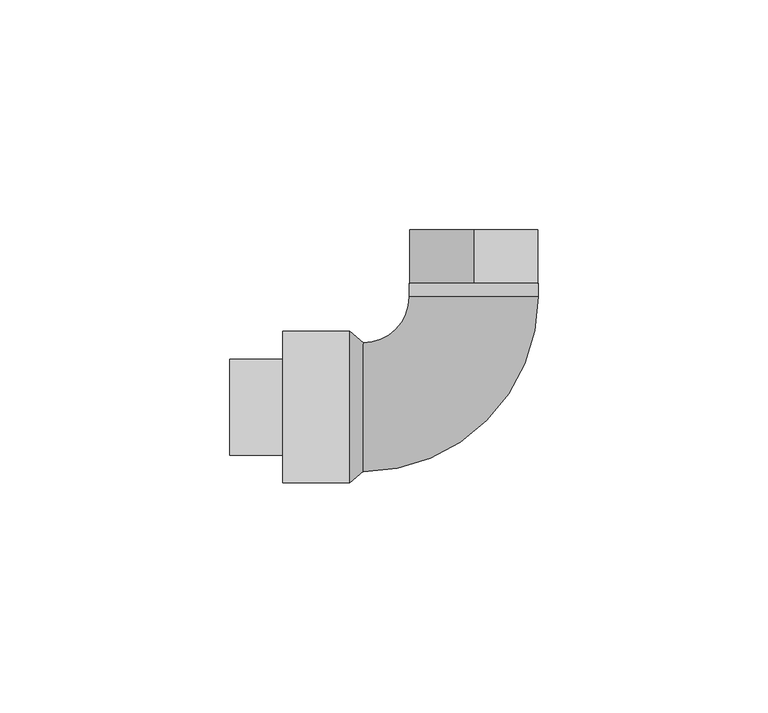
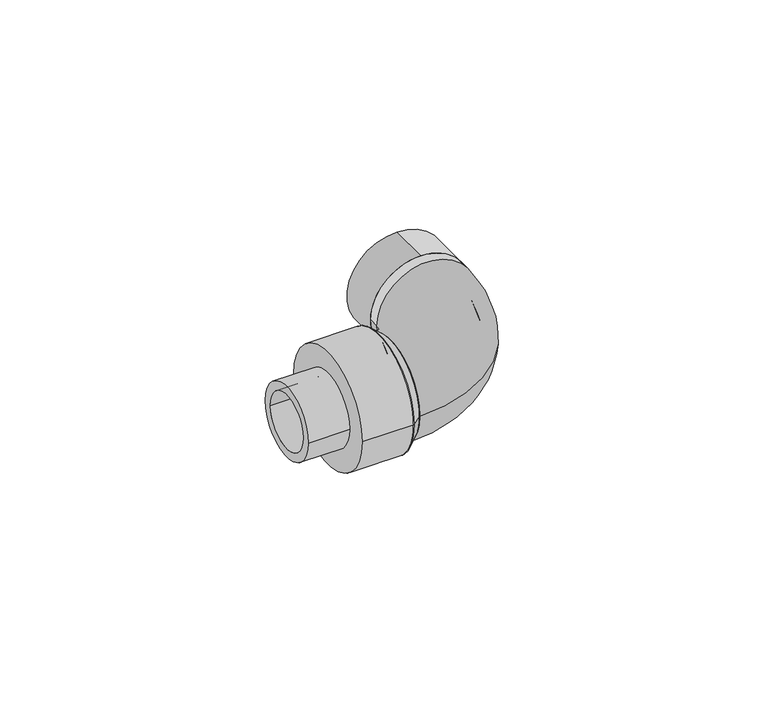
"""IFC4 building model written with IfcOpenShell, lengths in millimetres: pipe fitting geometry, 37_Угольник комбинированный НР : Белый цвет."""

from ifc_helpers import new_model, si_unit, point, frame, frame_2d, origin, origin_2d, place, context, project, spatial, polyline, circle_curve, ellipse_curve, trimmed, segment, composite_curve, outline, extrude, source, transform, mapped, element, save
from ifc_brep_helpers import plane_surface, revolved_surface, advanced_brep


def pipe_fitting_3f71ca70(model_context):
    return source(origin(), model_context, "Body", "SolidModel", [
        extrude(outline(composite_curve([segment(trimmed(circle_curve(origin_2d(), 10.4), [point((-10.4, 0.0))], [point((10.4, 0.0))], False, "CARTESIAN"), True, "CONTINUOUS"), segment(trimmed(circle_curve(origin_2d(), 10.4), [point((10.4, 0.0))], [point((-10.4, 0.0))], False, "CARTESIAN"), True, "CONTINUOUS")], self_intersect=False), holes=[composite_curve([segment(trimmed(circle_curve(origin_2d(), 7.9), [point((-7.9, 0.0))], [point((7.9, 0.0))], True, "CARTESIAN"), True, "CONTINUOUS"), segment(trimmed(circle_curve(origin_2d(), 7.9), [point((7.9, 0.0))], [point((-7.9, 0.0))], True, "CARTESIAN"), True, "CONTINUOUS")], self_intersect=False)]), frame((-49.35, 0.0, 0.0), z_axis=(1.0, 0.0, 0.0), x_axis=(0.0, 1.0, 0.0)), (0.0, 0.0, 1.0), 11.5),
        advanced_brep(
        [(-10.35, 24.0, 0.0), (17.65, 24.0, 0.0), (-6.35, 24.0, 0.0), (13.65, 24.0, 0.0), (-20.35, 14.0, 0.0), (-20.35, -14.0, 0.0), (-20.35, 10.0, 0.0), (-20.35, -10.0, 0.0)],
        [
            (0, 1, circle_curve(frame((3.65, 24.0, 0.0), z_axis=(0.0, 1.0, 0.0), x_axis=(1.0, 0.0, 0.0)), 14.0)),
            (1, 0, circle_curve(frame((3.65, 24.0, 0.0), z_axis=(0.0, 1.0, 0.0), x_axis=(1.0, 0.0, 0.0)), 14.0)),
            (2, 3, circle_curve(frame((3.65, 24.0, 0.0), z_axis=(0.0, -1.0, 0.0), x_axis=(1.0, 0.0, 0.0)), 10.0)),
            (3, 2, circle_curve(frame((3.65, 24.0, 0.0), z_axis=(0.0, -1.0, 0.0), x_axis=(1.0, 0.0, 0.0)), 10.0)),
            (4, 5, circle_curve(frame((-20.35, 0.0, 0.0), z_axis=(-1.0, 0.0, 0.0), x_axis=(0.0, -1.0, 0.0)), 14.0)),
            (5, 4, circle_curve(frame((-20.35, 0.0, 0.0), z_axis=(-1.0, 0.0, 0.0), x_axis=(0.0, -1.0, 0.0)), 14.0)),
            (6, 7, circle_curve(frame((-20.35, 0.0, 0.0), z_axis=(1.0, 0.0, 0.0), x_axis=(0.0, -1.0, 0.0)), 10.0)),
            (7, 6, circle_curve(frame((-20.35, 0.0, 0.0), z_axis=(1.0, 0.0, 0.0), x_axis=(0.0, -1.0, 0.0)), 10.0)),
            (5, 1, circle_curve(frame((-20.35, 24.0, 0.0), z_axis=(0.0, 0.0, 1.0), x_axis=(1.0, 0.0, 0.0)), 38.0)),
            (0, 4, circle_curve(frame((-20.35, 24.0, 0.0), z_axis=(0.0, 0.0, -1.0), x_axis=(1.0, 0.0, 0.0)), 10.0)),
            (7, 3, circle_curve(frame((-20.35, 24.0, 0.0), z_axis=(0.0, 0.0, 1.0), x_axis=(1.0, 0.0, 0.0)), 34.0)),
            (2, 6, circle_curve(frame((-20.35, 24.0, 0.0), z_axis=(0.0, 0.0, -1.0), x_axis=(1.0, 0.0, 0.0)), 14.0)),
        ],
        [
            plane_surface(frame((3.65, 24.0, 0.0), z_axis=(0.0, 1.0, 0.0), x_axis=(0.0, 0.0, 1.0))),
            plane_surface(frame((-20.35, 0.0, 0.0), z_axis=(-1.0, 0.0, 0.0), x_axis=(0.0, 0.0, 1.0))),
            revolved_surface(trimmed(ellipse_curve(frame((3.65, 24.0, 0.0), z_axis=(0.0, 1.0, 0.0), x_axis=(1.0, 0.0, 0.0)), 14.0, 14.0), [point((-10.35, 24.0, 0.0))], [point((17.65, 24.0, 0.0))], True, "CARTESIAN"), (-20.35, 24.0, 0.0), (0.0, 0.0, -1.0)),
            revolved_surface(trimmed(ellipse_curve(frame((3.65, 24.0, 0.0), z_axis=(0.0, 1.0, 0.0), x_axis=(1.0, 0.0, 0.0)), 14.0, 14.0), [point((17.65, 24.0, 0.0))], [point((-10.35, 24.0, 0.0))], True, "CARTESIAN"), (-20.35, 24.0, 0.0), (0.0, 0.0, -1.0)),
            revolved_surface(trimmed(ellipse_curve(frame((3.65, 24.0, 0.0), z_axis=(0.0, -1.0, 0.0), x_axis=(1.0, 0.0, 0.0)), 10.0, 10.0), [point((-6.35, 24.0, 0.0))], [point((13.65, 24.0, 0.0))], True, "CARTESIAN"), (-20.35, 24.0, 0.0), (0.0, 0.0, -1.0)),
            revolved_surface(trimmed(ellipse_curve(frame((3.65, 24.0, 0.0), z_axis=(0.0, -1.0, 0.0), x_axis=(1.0, 0.0, 0.0)), 10.0, 10.0), [point((13.65, 24.0, 0.0))], [point((-6.35, 24.0, 0.0))], True, "CARTESIAN"), (-20.35, 24.0, 0.0), (0.0, 0.0, -1.0)),
        ],
        [
            (0, [[1, 2], [3, 4]]),
            (1, [[5, 6], [7, 8]]),
            (2, [[9, -1, 10, -6]]),
            (3, [[-10, -2, -9, -5]]),
            (4, [[11, -3, 12, -8]]),
            (5, [[-12, -4, -11, -7]]),
        ],
    ),
        advanced_brep(
        [(-20.35, -13.95, 0.0), (-20.35, 14.05, 0.0), (-20.35, 10.05, 0.0), (-20.35, -9.95, 0.0), (-23.35, -16.45, 0.0), (-23.35, 16.55, 0.0), (-23.35, -7.85, 0.0), (-23.35, 7.95, 0.0)],
        [
            (0, 1, circle_curve(frame((-20.35, 0.05, 0.0), z_axis=(1.0, 0.0, 0.0), x_axis=(0.0, -1.0, 0.0)), 14.0)),
            (1, 0, circle_curve(frame((-20.35, 0.05, 0.0), z_axis=(1.0, 0.0, 0.0), x_axis=(0.0, 1.0, 0.0)), 14.0)),
            (2, 3, circle_curve(frame((-20.35, 0.05, 0.0), z_axis=(-1.0, 0.0, -1.2355450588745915e-12), x_axis=(0.0, -1.0, 0.0)), 10.0)),
            (3, 2, circle_curve(frame((-20.35, 0.05, 0.0), z_axis=(-1.0, 0.0, -1.2355450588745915e-12), x_axis=(0.0, 1.0, 0.0)), 10.0)),
            (4, 5, circle_curve(frame((-23.35, 0.05, 0.0), z_axis=(-1.0, 0.0, 0.0), x_axis=(0.0, 1.0, 0.0)), 16.5)),
            (5, 4, circle_curve(frame((-23.35, 0.05, 0.0), z_axis=(-1.0, 0.0, 0.0), x_axis=(0.0, -1.0, 0.0)), 16.5)),
            (6, 7, circle_curve(frame((-23.35, 0.05, 0.0), z_axis=(1.0, 0.0, 1.2355450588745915e-12), x_axis=(0.0, -1.0, 0.0)), 7.9)),
            (7, 6, circle_curve(frame((-23.35, 0.05, 0.0), z_axis=(1.0, 0.0, 1.2355450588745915e-12), x_axis=(0.0, 1.0, 0.0)), 7.9)),
            (0, 4),
            (5, 1),
            (6, 3),
            (2, 7),
        ],
        [
            plane_surface(frame((-20.35, 0.05, 0.0), z_axis=(1.0, 0.0, 0.0), x_axis=(0.0, 0.0, -1.0))),
            plane_surface(frame((-23.35, 0.05, 0.0), z_axis=(-1.0, 0.0, 0.0), x_axis=(0.0, 0.0, -1.0))),
            revolved_surface(polyline([(-20.35, -13.95, 0.0), (-23.35, -16.45, 0.0)]), (-3.55, 0.05, 0.0), (-1.0, 0.0, 0.0)),
            revolved_surface(polyline([(-20.35, 14.05, 0.0), (-23.35, 16.55, 0.0)]), (-3.55, 0.05, 0.0), (-1.0, 0.0, 0.0)),
            revolved_surface(polyline([(-20.35, -9.95, 0.0), (-23.35, -7.8500000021, 0.0)]), (-34.6357143, 0.05, 0.0), (1.0, 0.0, 1.2355450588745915e-12)),
        ],
        [
            (0, [[1, 2], [3, 4]]),
            (1, [[5, 6], [7, 8]]),
            (2, [[-1, 9, -6, 10]]),
            (3, [[-2, -10, -5, -9]]),
            (4, [[11, -3, 12, -7]]),
            (4, [[-11, -8, -12, -4]]),
        ],
    ),
        extrude(outline(composite_curve([segment(trimmed(circle_curve(frame_2d((0.0, 3.65)), 14.0), [point((0.0, -10.35))], [point((0.0, 17.65))], False, "CARTESIAN"), True, "CONTINUOUS"), segment(trimmed(circle_curve(frame_2d((0.0, 3.65)), 14.0), [point((0.0, 17.65))], [point((0.0, -10.35))], False, "CARTESIAN"), True, "CONTINUOUS")], self_intersect=False), holes=[composite_curve([segment(trimmed(circle_curve(frame_2d((0.0, 3.65)), 10.0), [point((0.0, 13.65))], [point((0.0, -6.35))], True, "CARTESIAN"), True, "CONTINUOUS"), segment(trimmed(circle_curve(frame_2d((0.0, 3.65)), 10.0), [point((0.0, -6.35))], [point((0.0, 13.65))], True, "CARTESIAN"), True, "CONTINUOUS")], self_intersect=False)]), frame((0.0, 24.0, 0.0), z_axis=(0.0, 1.0, 0.0), x_axis=(0.0, 0.0, 1.0)), (0.0, 0.0, 1.0), 3.0),
        extrude(outline(composite_curve([segment(trimmed(circle_curve(frame_2d((0.0, 3.65)), 14.0), [point((-14.0, 3.65))], [point((14.0, 3.65))], False, "CARTESIAN"), True, "CONTINUOUS"), segment(trimmed(circle_curve(frame_2d((0.0, 3.65)), 14.0), [point((14.0, 3.65))], [point((-14.0, 3.65))], False, "CARTESIAN"), True, "CONTINUOUS")], self_intersect=False), holes=[composite_curve([segment(trimmed(circle_curve(frame_2d((0.0, 3.65)), 10.0), [point((-10.0, 3.65))], [point((10.0, 3.65))], True, "CARTESIAN"), True, "CONTINUOUS"), segment(trimmed(circle_curve(frame_2d((0.0, 3.65)), 10.0), [point((10.0, 3.65))], [point((-10.0, 3.65))], True, "CARTESIAN"), True, "CONTINUOUS")], self_intersect=False)]), frame((0.0, 27.0, 0.0), z_axis=(0.0, 1.0, 0.0), x_axis=(0.0, 0.0, 1.0)), (0.0, 0.0, 1.0), 11.55),
        extrude(outline(composite_curve([segment(trimmed(circle_curve(frame_2d((0.05, 0.0)), 16.5), [point((-16.45, 0.0))], [point((16.55, 0.0))], False, "CARTESIAN"), True, "CONTINUOUS"), segment(trimmed(circle_curve(frame_2d((0.05, 0.0)), 16.5), [point((16.55, 0.0))], [point((-16.45, 0.0))], False, "CARTESIAN"), True, "CONTINUOUS")], self_intersect=False), holes=[composite_curve([segment(trimmed(circle_curve(frame_2d((0.05, 0.0)), 7.9), [point((-7.85, 0.0))], [point((7.95, 0.0))], True, "CARTESIAN"), True, "CONTINUOUS"), segment(trimmed(circle_curve(frame_2d((0.05, 0.0)), 7.9), [point((7.95, 0.0))], [point((-7.85, 0.0))], True, "CARTESIAN"), True, "CONTINUOUS")], self_intersect=False)]), frame((-37.85, 0.0, 0.0), z_axis=(1.0, 0.0, 0.0), x_axis=(0.0, 1.0, 0.0)), (0.0, 0.0, 1.0), 14.5),
    ])


if __name__ == "__main__":
    model = new_model("IFC4")
    model_context = context("Model", 3, world=origin())
    ifc_project = project(units=[si_unit("LENGTHUNIT", "METRE", prefix="MILLI")], contexts=[model_context])
    site = spatial("IfcSite", under=ifc_project)
    building = spatial("IfcBuilding", under=site)
    placement = place(None, origin())
    pipe_fitting_shape = pipe_fitting_3f71ca70(model_context)
    element("IfcPipeFitting", 1, ObjectType="37_Угольник комбинированный НР : Белый цвет", at=placement, inside=building, context=model_context, shape_type="MappedRepresentation", body=[
        mapped(pipe_fitting_shape, transform((0.0, 0.0, 0.0), x_axis=(1.0, 0.0, 0.0), y_axis=(0.0, 1.0, 0.0), z_axis=(0.0, 0.0, 1.0))),
    ])
    save(model, "model.ifc")
